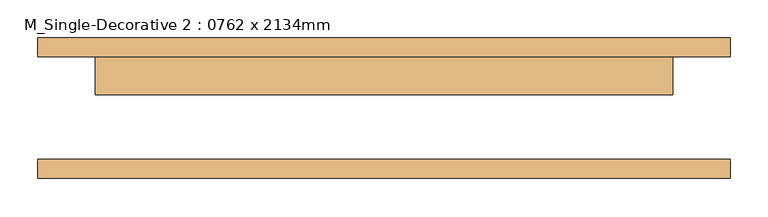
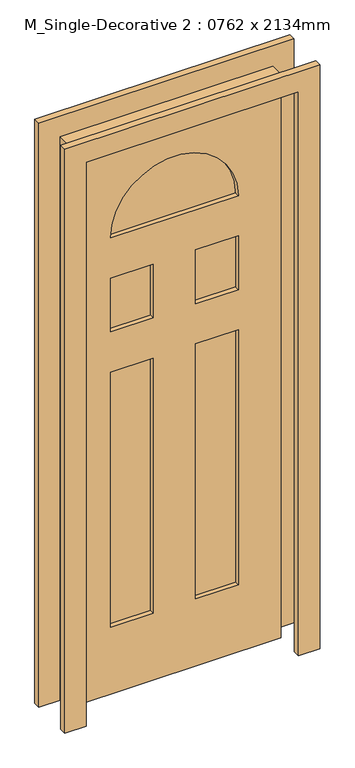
"""IFC4 building model written with IfcOpenShell, lengths in millimetres: door geometry, M_Single-Decorative 2 : 0762 x 2134mm."""

from ifc_helpers import new_model, si_unit, point, frame, frame_2d, origin, place, context, project, spatial, polyline, circle_curve, trimmed, segment, composite_curve, outline, extrude, source, transform, mapped, element, save


def m_single_decorative_2_0762_x_2134mm_2fe67c8e(model_context):
    return source(origin(), model_context, "Body", "SweptSolid", [
        extrude(outline(polyline([(2134.0, 381.0), (2134.0, -381.0), (0.0, -381.0), (0.0, 381.0), (2134.0, 381.0)]), holes=[polyline([(1219.3, -76.2), (254.0, -76.2), (254.0, -228.6), (1219.3, -228.6), (1219.3, -76.2)]), polyline([(1219.3, 228.6), (254.0, 228.6), (254.0, 76.2), (1219.3, 76.2), (1219.3, 228.6)]), polyline([(1371.7, -76.2), (1371.7, -228.6), (1574.9, -228.6), (1574.9, -76.2), (1371.7, -76.2)]), polyline([(1574.9, 76.2), (1574.9, 228.6), (1371.7, 228.6), (1371.7, 76.2), (1574.9, 76.2)]), composite_curve([segment(polyline([(1727.3, 228.6), (1727.3, -228.6)]), True, "CONTINUOUS"), segment(trimmed(circle_curve(frame_2d((1727.3, 0.0)), 228.6), [point((1727.3, -228.6))], [point((1727.3, 228.6))], True, "CARTESIAN"), True, "CONTINUOUS")], self_intersect=False)]), frame((0.0, 17.75, 0.0), z_axis=(0.0, 1.0, 0.0), x_axis=(0.0, 0.0, 1.0)), (0.0, 0.0, 1.0), 50.0),
        extrude(outline(polyline([(0.0, 381.0), (0.0, 457.0), (2210.0, 457.0), (2210.0, -457.0), (0.0, -457.0), (0.0, -381.0), (2134.0, -381.0), (2134.0, 381.0), (0.0, 381.0)])), frame((0.0, -92.75, 0.0), z_axis=(0.0, 1.0, 0.0), x_axis=(0.0, 0.0, 1.0)), (0.0, 0.0, 1.0), 25.0),
        extrude(outline(polyline([(2210.0, -457.0), (0.0, -457.0), (0.0, -381.0), (2134.0, -381.0), (2134.0, 381.0), (0.0, 381.0), (0.0, 457.0), (2210.0, 457.0), (2210.0, -457.0)])), frame((0.0, 67.75, 0.0), z_axis=(0.0, 1.0, 0.0), x_axis=(0.0, 0.0, 1.0)), (0.0, 0.0, 1.0), 25.0),
        extrude(outline(composite_curve([segment(trimmed(circle_curve(frame_2d((1727.3, 0.0)), 228.6), [point((1727.3, 228.6))], [point((1727.3, -228.6))], False, "CARTESIAN"), True, "CONTINUOUS"), segment(polyline([(1727.3, -228.6), (1727.3, 228.6)]), True, "CONTINUOUS")], self_intersect=False)), frame((0.0, 34.4166667, 0.0), z_axis=(0.0, 1.0, 0.0), x_axis=(0.0, 0.0, 1.0)), (0.0, 0.0, 1.0), 16.6666667),
        extrude(outline(polyline([(-228.6, 51.0833333), (-76.2, 51.0833333), (-76.2, 34.4166667), (-228.6, 34.4166667), (-228.6, 51.0833333)])), frame((0.0, 0.0, 254.0), z_axis=(0.0, 0.0, 1.0), x_axis=(1.0, 0.0, 0.0)), (0.0, 0.0, 1.0), 965.3),
        extrude(outline(polyline([(76.2, 51.0833333), (228.6, 51.0833333), (228.6, 34.4166667), (76.2, 34.4166667), (76.2, 51.0833333)])), frame((0.0, 0.0, 254.0), z_axis=(0.0, 0.0, 1.0), x_axis=(1.0, 0.0, 0.0)), (0.0, 0.0, 1.0), 965.3),
        extrude(outline(polyline([(76.2, 51.0833333), (228.6, 51.0833333), (228.6, 34.4166667), (76.2, 34.4166667), (76.2, 51.0833333)])), frame((0.0, 0.0, 1371.7), z_axis=(0.0, 0.0, 1.0), x_axis=(1.0, 0.0, 0.0)), (0.0, 0.0, 1.0), 203.2),
        extrude(outline(polyline([(-228.6, 51.0833333), (-76.2, 51.0833333), (-76.2, 34.4166667), (-228.6, 34.4166667), (-228.6, 51.0833333)])), frame((0.0, 0.0, 1371.7), z_axis=(0.0, 0.0, 1.0), x_axis=(1.0, 0.0, 0.0)), (0.0, 0.0, 1.0), 203.2),
    ])


if __name__ == "__main__":
    model = new_model("IFC4")
    model_context = context("Model", 3, world=origin())
    ifc_project = project(units=[si_unit("LENGTHUNIT", "METRE", prefix="MILLI")], contexts=[model_context])
    site = spatial("IfcSite", under=ifc_project)
    building = spatial("IfcBuilding", under=site)
    placement = place(None, origin())
    m_single_decorative_2_0762_x_2134mm_shape = m_single_decorative_2_0762_x_2134mm_2fe67c8e(model_context)
    element("IfcDoor", 1, ObjectType="M_Single-Decorative 2 : 0762 x 2134mm", at=placement, inside=building, context=model_context, shape_type="MappedRepresentation", body=[
        mapped(m_single_decorative_2_0762_x_2134mm_shape, transform((0.0, 0.0, 0.0), x_axis=(1.0, 0.0, 0.0), y_axis=(0.0, 1.0, 0.0), z_axis=(0.0, 0.0, 1.0))),
    ])
    save(model, "model.ifc")
